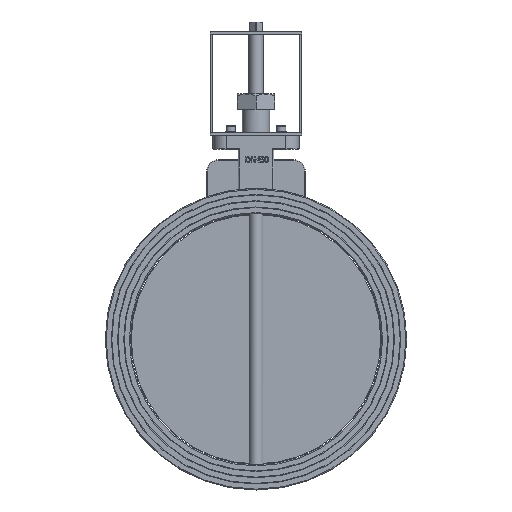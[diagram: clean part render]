
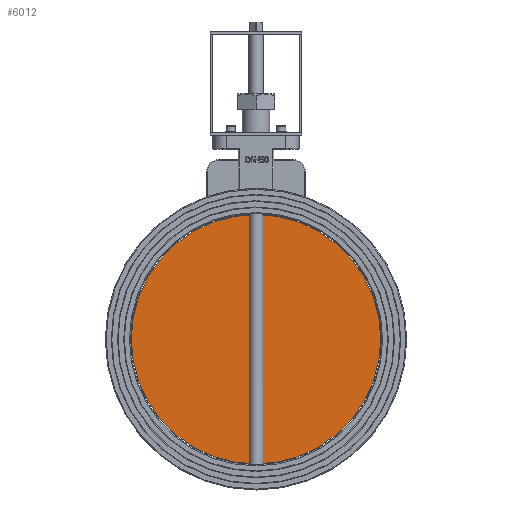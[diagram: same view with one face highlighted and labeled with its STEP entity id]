
A CAD part, top view. The second image highlights one B-rep face of the part: STEP entity #6012.
In plain terms, the highlighted planar face has unit normal (0, 0, 1) as drawn and (0, 0, -1) by its records, which use the part's own axes.
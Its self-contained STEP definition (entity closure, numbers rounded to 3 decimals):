
#1857=FACE_OUTER_BOUND('',#2336,.T.);
#2336=EDGE_LOOP('',(#5422));
#2570=CIRCLE('',#6561,217.25);
#3106=VERTEX_POINT('',#10442);
#3884=EDGE_CURVE('',#3106,#3106,#2570,.T.);
#5422=ORIENTED_EDGE('',*,*,#3884,.T.);
#5671=PLANE('',#6562);
#6012=ADVANCED_FACE('',(#1857),#5671,.F.);
#6561=AXIS2_PLACEMENT_3D('',#10443,#8093,#8094);
#6562=AXIS2_PLACEMENT_3D('',#10444,#8095,#8096);
#8093=DIRECTION('center_axis',(0.,0.,-1.));
#8094=DIRECTION('ref_axis',(-1.,0.,0.));
#8095=DIRECTION('center_axis',(0.,0.,1.));
#8096=DIRECTION('ref_axis',(1.,0.,0.));
#10442=CARTESIAN_POINT('',(217.25,0.,0.));
#10443=CARTESIAN_POINT('Origin',(0.,0.,0.));
#10444=CARTESIAN_POINT('Origin',(0.,0.,
0.));
